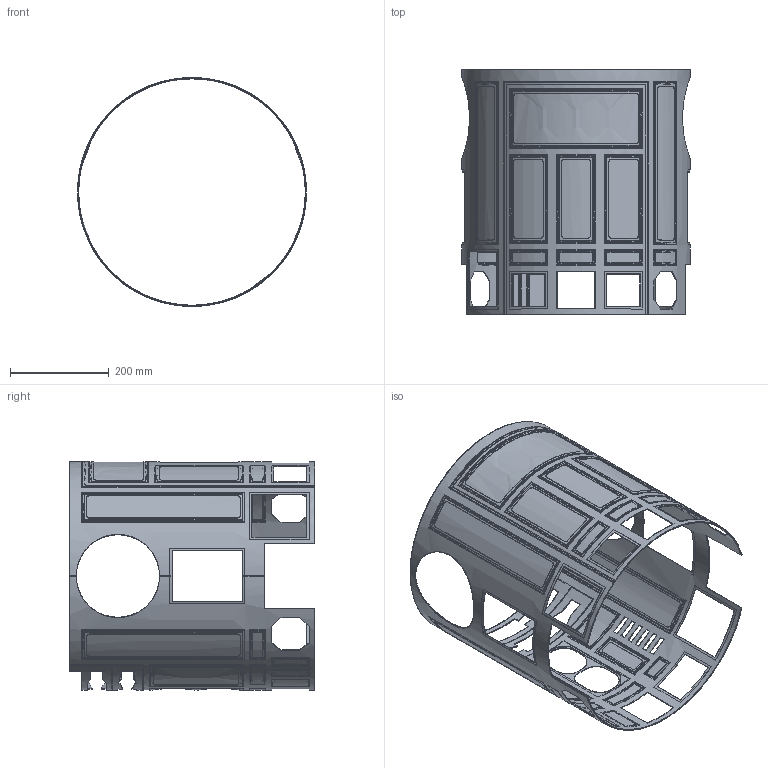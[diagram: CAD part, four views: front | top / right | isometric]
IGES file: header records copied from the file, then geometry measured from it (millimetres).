
Start section: 3D InterOp IGES (Version 21 0 3), Spatial Corp. Copyright (c) 1999-2007.
Global section: file name: CSR SKIN Rolled Assembly ANH - 20140501 3D - IGES.igs; native system: Spatial Corp.; preprocessor: 3D InterOp GENERIC/IGES 3.0; author: Noname; organization: Noname; date: 20140522.005617; units: inch
Bounding box: 463.55 x 496.89 x 463.55 mm (x, y, z)
Surface area: 1759313.1 mm2 (no closed solid volume)
Topology: 0 solids, 0 shells, 834 faces, 4368 edges, 4368 vertices
Faces by surface type: extrusion 640, bspline 141, offset 53
